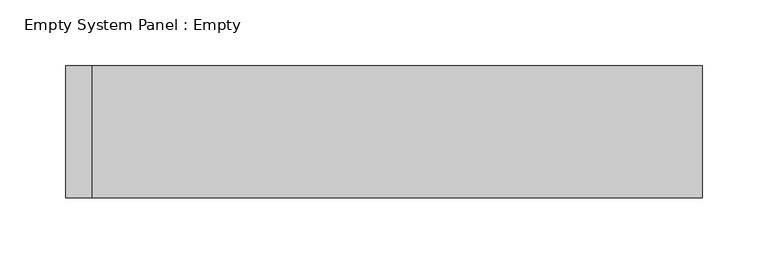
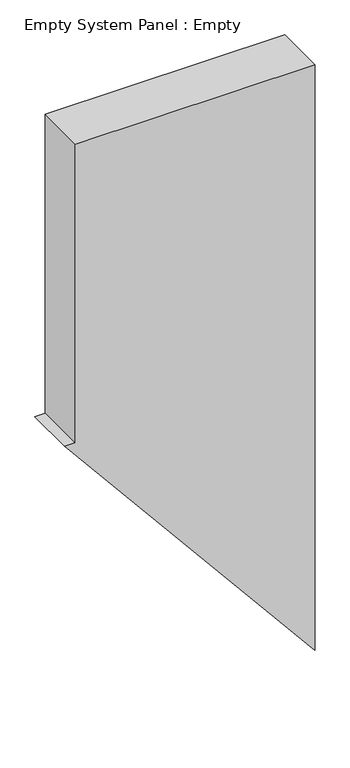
"""IFC4 building model written with IfcOpenShell, lengths in millimetres: plate geometry, Empty System Panel : Empty."""

from ifc_helpers import new_model, si_unit, frame, origin, place, context, project, spatial, polyline, outline, extrude, source, transform, mapped, element, save


def empty_system_panel_empty_86dc4233(model_context):
    return source(origin(), model_context, "Body", "SweptSolid", [
        extrude(outline(polyline([(585.3766377, -241.6440778), (0.0, 241.6440778), (1194.9780217, 241.6440778), (1194.9780217, -221.6440778), (585.3766377, -221.6440778), (585.3766377, -241.6440778)])), frame((0.0, -50.0, 0.0), z_axis=(0.0, 1.0, 0.0), x_axis=(0.0, 0.0, 1.0)), (0.0, 0.0, 1.0), 100.0),
    ])


if __name__ == "__main__":
    model = new_model("IFC4")
    model_context = context("Model", 3, world=origin())
    ifc_project = project(units=[si_unit("LENGTHUNIT", "METRE", prefix="MILLI")], contexts=[model_context])
    site = spatial("IfcSite", under=ifc_project)
    building = spatial("IfcBuilding", under=site)
    placement = place(None, origin())
    empty_system_panel_empty_shape = empty_system_panel_empty_86dc4233(model_context)
    element("IfcPlate", 1, ObjectType="Empty System Panel : Empty", at=placement, inside=building, context=model_context, shape_type="MappedRepresentation", body=[
        mapped(empty_system_panel_empty_shape, transform((0.0, 0.0, 0.0), x_axis=(1.0, 0.0, 0.0), y_axis=(0.0, 1.0, 0.0), z_axis=(0.0, 0.0, 1.0))),
    ])
    save(model, "model.ifc")
